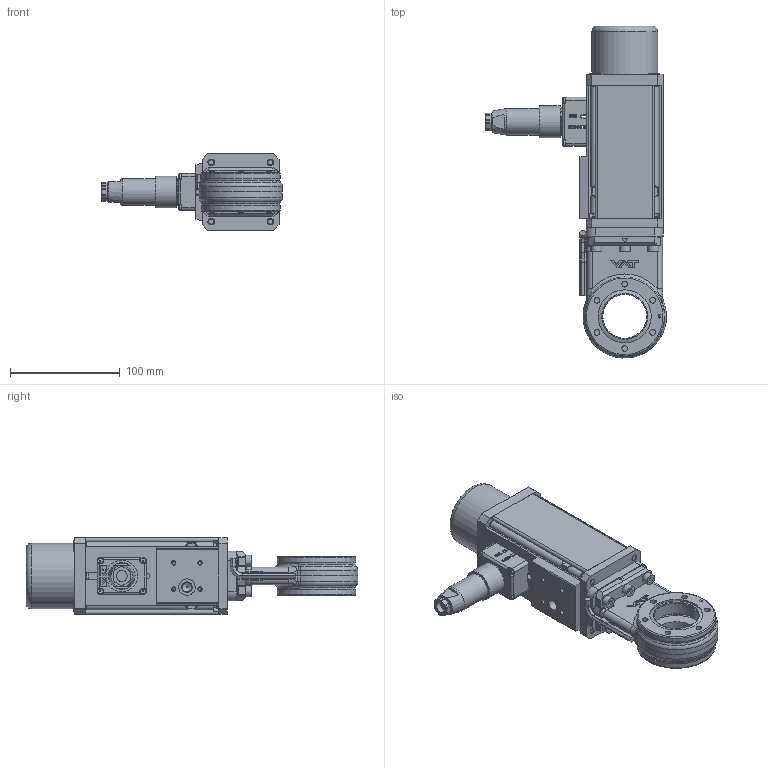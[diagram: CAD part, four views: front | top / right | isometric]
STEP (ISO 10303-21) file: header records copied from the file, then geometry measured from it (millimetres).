
FILE_DESCRIPTION(/* description */ (''),/* implementation_level */ '2;1');
FILE_NAME(/* name */ '1098115755_203',/* time_stamp */ '2009-09-01T15:27:43+02:00',/* author */ (''),/* organization */ (''),/* preprocessor_version */ 'ST-DEVELOPER v11',/* originating_system */ 'UGS - NX 5.0',/* authorisation */ '');
FILE_SCHEMA (('CONFIG_CONTROL_DESIGN'));
Length unit declared in the file: millimetre
Products named in the file (23): 63150-01; 63172-01; 69852-01; 69672-01; n-8504-002; N-6016-078.1; 92412-01.2; 69968-01.1; 70687-01.2; 72771-01.1; 70709-01.1; 228772.1; 73280-01_1.1; 63152-01.4; 224809.1; 68156-01.1; 70708-01.1; 70701-01.1; 65209-01.2; 318865; 63170-r1; 68340-r1.6; 415660
Assembly tree (42 placements, depth 5):
  415660
    65209-01.2
    70701-01.1
    70708-01.1
    68156-01.1  x4
    224809.1  x4
    63152-01.4
    73280-01_1.1
    228772.1  x6
    70709-01.1
    72771-01.1  x4
    70687-01.2
    69968-01.1
    68340-r1.6
      69852-01
      63172-01
      63170-r1
        318865
          63150-01  x2
      92412-01.2
    92412-01.2  x2
    N-6016-078.1  x4
    n-8504-002
    69672-01
Bounding box: 165.01 x 303.02 x 70 mm (x, y, z)
Volume: 510660.9 mm3; surface area: 243878.1 mm2
Topology: 62 solids, 62 shells, 1401 faces, 3320 edges, 2201 vertices
Faces by surface type: plane 805, cylinder 383, cone 87, bspline 66, extrusion 31, torus 29
Full cylindrical faces by diameter (mm): 1.5 x1, 1.95 x4, 2.25 x4, 2.46 x4, 2.5 x8, 3 x8, 3.3 x4, 3.4 x6, 4 x8, 4.4 x8, 4.96 x10, 5 x17, 5.2 x18, 5.95 x2, 6 x42, 6.2 x10, 6.475 x4, 6.95 x2, 7.982 x4, 8.2 x4, 8.6 x1, 9.728 x1, 9.85 x1, 10 x11, 10.012 x4, 11.35 x4, 13.3 x1, 13.85 x1, 14.9 x1, 15 x1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
Entity records: 38744 total; most frequent: CARTESIAN_POINT 11049, ORIENTED_EDGE 4914, DIRECTION 4794, EDGE_CURVE 2457, VERTEX_POINT 1774, AXIS2_PLACEMENT_3D 1738, EDGE_LOOP 1496, VECTOR 1318
